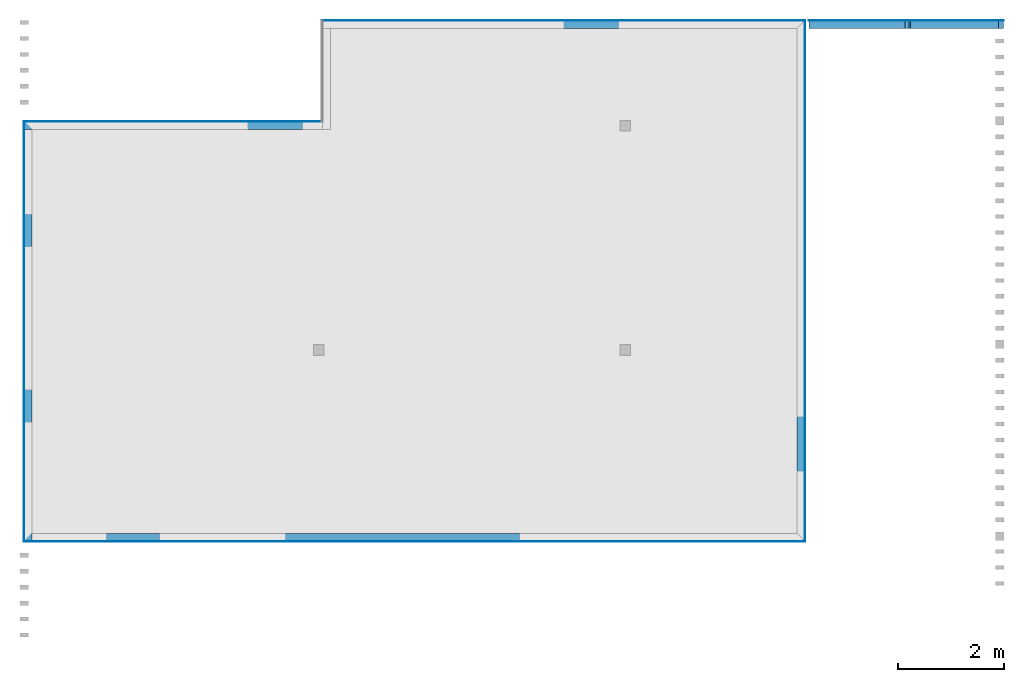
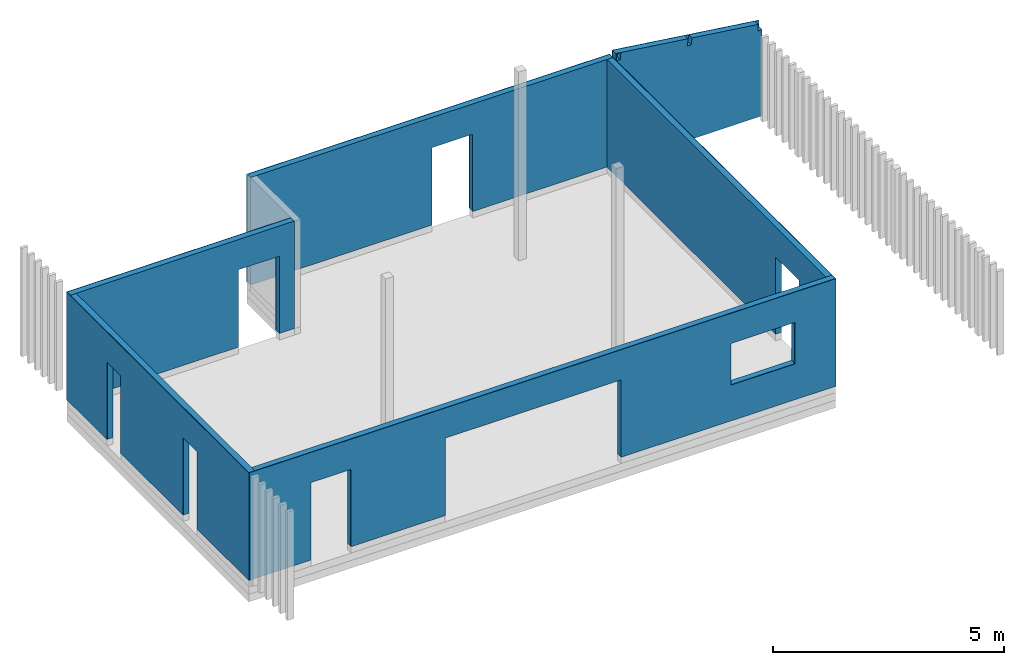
# One storey, part 3 of 3: 12 building element parts, 6 elements without a shape of their own.
"""IFC4 building model written with IfcOpenShell, lengths in centimetres."""

from ifc_helpers import new_model, entity, si_unit, converted_unit, derived_unit, direction, frame, origin, place, context, subcontext, project, spatial, polygons, material, type_object, element, aggregate, save


model = new_model("IFC4")

# Units and contexts
model_context = context("Model", 3, precision=0.001, world=origin(), true_north=direction((6.123233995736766e-17, 1.0)))
body_context = subcontext(model_context, "Body", "Model", "MODEL_VIEW")
ifc_project = project(units=[si_unit("LENGTHUNIT", "METRE", prefix="CENTI"), si_unit("AREAUNIT", "SQUARE_METRE"), converted_unit("PLANEANGLEUNIT", "DEGREE", entity("IfcPlaneAngleMeasure", 0.017453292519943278), si_unit("PLANEANGLEUNIT", "RADIAN"), dimensions=[0, 0, 0, 0, 0, 0, 0]), si_unit("VOLUMEUNIT", "CUBIC_METRE"), derived_unit("THERMALTRANSMITTANCEUNIT", [(si_unit("MASSUNIT", "GRAM", prefix="KILO"), 1), (si_unit("THERMODYNAMICTEMPERATUREUNIT", "KELVIN"), -1), (si_unit("TIMEUNIT", "SECOND"), -3)])], contexts=[model_context])

# Site, building, storey
site_placement = place(None, frame((-0.003347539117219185, 0.0, 0.0)))
site = spatial("IfcSite", under=ifc_project, at=site_placement, Name="Default", CompositionType="ELEMENT")
building_placement = place(site_placement, origin())
building = spatial("IfcBuilding", under=site, at=building_placement, CompositionType="ELEMENT")
storey_placement = place(building_placement, frame((0.0, 0.0, 31.0)))
storey = spatial("IfcBuildingStorey", under=building, at=storey_placement, Name="± 0.000", CompositionType="ELEMENT", Elevation=31.000000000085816)

# Wall, building element parts
wall_type_1 = type_object("IfcWallType", Name="Mur de base:MOB - 145+12 mm", PredefinedType="STANDARD")
wall_1_placement = place(storey_placement, frame((-6228.286652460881, -1700.0258849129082, -31.0)))
wall_1 = element("IfcWall", 1, at=wall_1_placement, inside=storey, type_object=wall_type_1, Name="Mur de base:MOB - 145+12 mm", ObjectType="Mur de base:MOB - 145+12 mm", PredefinedType="NOTDEFINED")
ifc_material_1 = material(Name="Panneau de grandes particules orientées", Category="Bois")
building_element_part_1_placement = place(wall_1_placement, origin())
building_element_part_1 = element("IfcBuildingElementPart", 2, at=building_element_part_1_placement, material=ifc_material_1, Name="Panneau de grandes particules orientées", context=body_context, shape_type="Tessellation", body=[
    polygons([(3.179247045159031e-14, 7.849999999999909, 46.00000000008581), (455.2999999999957, 7.850000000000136, 46.00000000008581), (455.2999999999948, 7.150000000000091, 46.00000000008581), (455.2999999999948, 6.650000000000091, 46.00000000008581), (3.56848039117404e-14, 6.650000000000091, 46.00000000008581), (909.3999999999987, 7.850000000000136, 331.00000000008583), (3.179247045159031e-14, 7.849999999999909, 331.00000000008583), (3.56848039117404e-14, 6.650000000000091, 331.00000000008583), (909.3999999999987, 6.650000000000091, 331.00000000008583), (909.3999999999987, 7.850000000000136, 46.00000000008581), (909.3999999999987, 6.650000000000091, 46.00000000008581), (557.2999999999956, 7.850000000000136, 251.0000000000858), (557.2999999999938, 7.850000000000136, 46.00000000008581), (557.2999999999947, 7.150000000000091, 46.00000000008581), (557.2999999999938, 6.649999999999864, 46.00000000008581), (557.2999999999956, 6.650000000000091, 251.0000000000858), (455.2999999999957, 7.850000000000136, 251.0000000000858), (455.2999999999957, 6.650000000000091, 251.0000000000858), (833.6999999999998, 7.850000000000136, 251.0000000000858), (833.6999999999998, 7.850000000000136, 141.0000000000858), (833.6999999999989, 6.649999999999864, 141.0000000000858), (833.6999999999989, 6.649999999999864, 251.0000000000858), (673.6999999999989, 7.850000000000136, 141.0000000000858), (673.6999999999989, 6.649999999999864, 141.0000000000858), (673.6999999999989, 7.850000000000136, 251.0000000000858), (673.6999999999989, 6.649999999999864, 251.0000000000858)], [[[1, 2, 3, 4, 5]], [[6, 7, 8, 9]], [[10, 6, 9, 11]], [[7, 1, 5, 8]], [[12, 13, 14, 15, 16]], [[2, 17, 18, 4, 3]], [[17, 12, 16, 18]], [[19, 20, 21, 22]], [[20, 23, 24, 21]], [[23, 25, 26, 24]], [[25, 19, 22, 26]], [[13, 10, 11, 15, 14]], [[15, 11, 9, 8, 5, 4, 18, 16], [22, 21, 24, 26]], [[7, 6, 10, 13, 12, 17, 2, 1], [20, 19, 25, 23]]], closed=True),
])
ifc_material_2 = material(Name="Structure, couche de solives/chevrons en bois d'oeuvre", Category="Divers")
building_element_part_2_placement = place(wall_1_placement, origin())
building_element_part_2 = element("IfcBuildingElementPart", 3, at=building_element_part_2_placement, material=ifc_material_2, Name="Structure, couche de solives/chevrons en bois d'oeuvre", context=body_context, shape_type="Tessellation", body=[
    polygons([(833.6999999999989, 6.649999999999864, 141.0000000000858), (833.6999999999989, 6.649999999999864, 251.0000000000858), (673.6999999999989, 6.649999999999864, 251.0000000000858), (673.6999999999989, 6.649999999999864, 141.0000000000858), (908.1999999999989, 6.650000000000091, 46.000000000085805), (557.2999999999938, 6.649999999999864, 46.000000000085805), (557.2999999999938, 6.650000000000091, 251.0000000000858), (455.2999999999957, 6.650000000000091, 251.0000000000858), (455.2999999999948, 6.650000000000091, 46.000000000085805), (1.1999999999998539, 6.650000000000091, 46.000000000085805), (1.1999999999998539, 6.650000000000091, 331.00000000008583), (908.1999999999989, 6.650000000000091, 331.00000000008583), (833.6999999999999, -7.849999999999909, 251.0000000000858), (833.6999999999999, -7.849999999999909, 141.0000000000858), (673.699999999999, -7.849999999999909, 141.0000000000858), (673.699999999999, -7.849999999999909, 251.0000000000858), (1.199999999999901, -7.849999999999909, 46.00000000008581), (455.2999999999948, -7.849999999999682, 46.00000000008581), (15.699999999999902, -7.849999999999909, 46.00000000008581), (893.6999999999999, -7.849999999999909, 331.00000000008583), (908.199999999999, -7.849999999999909, 331.00000000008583), (1.199999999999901, -7.849999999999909, 331.00000000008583), (15.699999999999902, -7.849999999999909, 331.00000000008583), (557.2999999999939, -7.849999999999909, 46.00000000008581), (557.2999999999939, -7.849999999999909, 251.0000000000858), (455.2999999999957, -7.849999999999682, 251.0000000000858), (893.6999999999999, -7.849999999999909, 46.00000000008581), (908.199999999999, -7.849999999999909, 46.00000000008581)], [[[5, 6, 7, 8, 9, 10, 11, 12], [1, 2, 3, 4]], [[13, 14, 15, 16]], [[17, 10, 9, 18, 19]], [[20, 21, 12, 11, 22, 23]], [[24, 25, 7, 6]], [[26, 18, 9, 8]], [[25, 26, 8, 7]], [[14, 13, 2, 1]], [[15, 14, 1, 4]], [[16, 15, 4, 3]], [[13, 16, 3, 2]], [[27, 24, 6, 5, 28]], [[17, 22, 11, 10]], [[21, 20, 23, 22, 17, 19, 18, 26, 25, 24, 27, 28]], [[21, 28, 5, 12]]], closed=True),
])
aggregate(wall_1, [building_element_part_1, building_element_part_2])

wall_2_placement = place(storey_placement, frame((-6228.286652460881, -1890.0258849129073, -31.0), z_axis=(0.0, 0.0, 1.0), x_axis=(-1.0, 0.0, 0.0)))
wall_2 = element("IfcWall", 4, at=wall_2_placement, inside=storey, type_object=wall_type_1, Name="Mur de base:MOB - 145+12 mm", ObjectType="Mur de base:MOB - 145+12 mm", PredefinedType="NOTDEFINED")
building_element_part_3_placement = place(wall_2_placement, origin())
building_element_part_3 = element("IfcBuildingElementPart", 5, at=building_element_part_3_placement, material=ifc_material_1, Name="Panneau de grandes particules orientées", context=body_context, shape_type="Tessellation", body=[
    polygons([(36.800000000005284, -7.849999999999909, 46.00000000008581), (5.535676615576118e-13, -7.849999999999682, 46.00000000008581), (5.498615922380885e-13, -6.649999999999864, 46.000000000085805), (36.80000000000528, -6.649999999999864, 46.000000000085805), (36.800000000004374, -7.149999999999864, 46.00000000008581), (5.535676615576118e-13, -7.849999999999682, 331.00000000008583), (561.0000000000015, -7.849999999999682, 331.00000000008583), (561.0000000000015, -6.650000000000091, 331.00000000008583), (5.498615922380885e-13, -6.649999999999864, 331.00000000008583), (561.0000000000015, -7.849999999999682, 46.00000000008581), (561.0000000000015, -6.650000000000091, 46.000000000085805), (138.80000000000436, -7.849999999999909, 46.00000000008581), (138.80000000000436, -7.849999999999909, 251.0000000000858), (138.80000000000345, -6.650000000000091, 251.0000000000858), (138.80000000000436, -6.650000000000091, 46.000000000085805), (138.80000000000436, -7.149999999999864, 46.00000000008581), (36.800000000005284, -7.849999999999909, 251.0000000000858), (36.80000000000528, -6.649999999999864, 251.0000000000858)], [[[1, 2, 3, 4, 5]], [[6, 7, 8, 9]], [[2, 6, 9, 3]], [[7, 10, 11, 8]], [[12, 13, 14, 15, 16]], [[17, 1, 5, 4, 18]], [[13, 17, 18, 14]], [[10, 12, 16, 15, 11]], [[4, 3, 9, 8, 11, 15, 14, 18]], [[7, 6, 2, 1, 17, 13, 12, 10]]], closed=True),
])
building_element_part_4_placement = place(wall_2_placement, origin())
building_element_part_4 = element("IfcBuildingElementPart", 6, at=building_element_part_4_placement, material=ifc_material_2, Name="Structure, couche de solives/chevrons en bois d'oeuvre", context=body_context, shape_type="Tessellation", body=[
    polygons([(-1.1999999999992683, -6.649999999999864, 46.00000000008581), (36.80000000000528, -6.649999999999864, 46.00000000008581), (36.80000000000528, -6.649999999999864, 251.0000000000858), (138.80000000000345, -6.650000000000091, 251.0000000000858), (138.80000000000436, -6.650000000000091, 46.00000000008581), (559.8000000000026, -6.650000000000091, 46.00000000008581), (559.8000000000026, -6.650000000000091, 331.00000000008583), (-1.1999999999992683, -6.649999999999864, 331.00000000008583), (-1.199999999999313, 7.850000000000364, 331.00000000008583), (545.3000000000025, 7.849999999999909, 331.00000000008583), (559.8000000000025, 7.850000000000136, 331.00000000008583), (559.8000000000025, 7.850000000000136, 46.00000000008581), (545.3000000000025, 7.849999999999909, 46.00000000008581), (138.80000000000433, 7.849999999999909, 46.00000000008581), (138.80000000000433, 7.849999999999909, 251.0000000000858), (36.800000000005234, 7.849999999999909, 251.0000000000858), (36.800000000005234, 7.849999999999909, 46.00000000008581), (-1.199999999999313, 7.850000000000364, 46.00000000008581)], [[[1, 2, 3, 4, 5, 6, 7, 8]], [[9, 10, 11, 12, 13, 14, 15, 16, 17, 18]], [[18, 17, 2, 1]], [[10, 9, 8, 7, 11]], [[15, 14, 5, 4]], [[17, 16, 3, 2]], [[16, 15, 4, 3]], [[13, 12, 6, 5, 14]], [[9, 18, 1, 8]], [[12, 11, 7, 6]]], closed=True),
])
aggregate(wall_2, [building_element_part_3, building_element_part_4])

wall_3_placement = place(storey_placement, frame((-6781.436652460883, -1897.8758849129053, -31.0), z_axis=(0.0, 0.0, 1.0), x_axis=(0.0, -1.0, 0.0)))
wall_3 = element("IfcWall", 7, at=wall_3_placement, inside=storey, type_object=wall_type_1, Name="Mur de base:MOB - 145+12 mm", ObjectType="Mur de base:MOB - 145+12 mm", PredefinedType="NOTDEFINED")
building_element_part_5_placement = place(wall_3_placement, origin())
building_element_part_5 = element("IfcBuildingElementPart", 8, at=building_element_part_5_placement, material=ifc_material_1, Name="Panneau de grandes particules orientées", context=body_context, shape_type="Tessellation", body=[
    polygons([(160.00000000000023, -7.849999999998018, 46.00000000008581), (-14.500000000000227, -7.849999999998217, 46.00000000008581), (-14.500000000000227, -6.6499999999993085, 46.000000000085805), (160.00000000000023, -6.6499999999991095, 46.000000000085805), (-14.500000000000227, -7.849999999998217, 331.00000000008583), (775.6999999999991, -7.8499999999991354, 331.00000000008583), (775.6999999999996, -6.649999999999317, 331.00000000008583), (-14.500000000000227, -6.6499999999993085, 331.00000000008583), (775.6999999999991, -7.8499999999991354, 46.00000000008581), (775.6999999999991, -6.649999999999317, 46.000000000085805), (490.0000000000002, -7.8499999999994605, 251.0000000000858), (490.0000000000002, -7.8499999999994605, 46.00000000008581), (490.0000000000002, -6.649999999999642, 46.000000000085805), (490.0000000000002, -6.649999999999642, 251.0000000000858), (549.9999999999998, -7.849999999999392, 46.00000000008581), (549.9999999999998, -7.849999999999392, 251.0000000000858), (549.9999999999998, -6.649999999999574, 251.0000000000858), (549.9999999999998, -6.649999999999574, 46.000000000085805), (159.99999999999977, -7.849999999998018, 251.0000000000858), (159.99999999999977, -6.6499999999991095, 251.0000000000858), (220.00000000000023, -7.84999999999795, 46.00000000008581), (219.99999999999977, -7.84999999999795, 251.0000000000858), (219.99999999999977, -6.649999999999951, 251.0000000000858), (220.00000000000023, -6.649999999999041, 46.000000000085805)], [[[1, 2, 3, 4]], [[5, 6, 7, 8]], [[6, 9, 10, 7]], [[11, 12, 13, 14]], [[15, 16, 17, 18]], [[16, 11, 14, 17]], [[19, 1, 4, 20]], [[21, 22, 23, 24]], [[22, 19, 20, 23]], [[12, 21, 24, 13]], [[9, 15, 18, 10]], [[4, 3, 8, 7, 10, 18, 17, 14, 13, 24, 23, 20]], [[6, 5, 2, 1, 19, 22, 21, 12, 11, 16, 15, 9]], [[2, 5, 8, 3]]], closed=True),
])
building_element_part_6_placement = place(wall_3_placement, origin())
building_element_part_6 = element("IfcBuildingElementPart", 9, at=building_element_part_6_placement, material=ifc_material_2, Name="Structure, couche de solives/chevrons en bois d'oeuvre", context=body_context, shape_type="Tessellation", body=[
    polygons([(0.0, -6.649999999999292, 46.00000000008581), (160.00000000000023, -6.6499999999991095, 46.00000000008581), (160.00000000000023, -6.6499999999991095, 251.0000000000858), (219.99999999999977, -6.649999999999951, 251.0000000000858), (220.00000000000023, -6.649999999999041, 46.00000000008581), (490.0000000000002, -6.649999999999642, 46.00000000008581), (490.0000000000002, -6.649999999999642, 251.0000000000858), (549.9999999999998, -6.649999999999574, 251.0000000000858), (549.9999999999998, -6.649999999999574, 46.00000000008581), (774.4999999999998, -6.649999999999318, 46.00000000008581), (774.4999999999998, -6.649999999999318, 331.00000000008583), (0.0, -6.649999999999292, 331.00000000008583), (0.0, 7.850000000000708, 331.00000000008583), (759.9999999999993, 7.850000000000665, 331.00000000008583), (774.4999999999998, 7.850000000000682, 331.00000000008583), (774.4999999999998, 7.850000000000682, 46.00000000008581), (759.9999999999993, 7.850000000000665, 46.00000000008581), (549.9999999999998, 7.850000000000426, 46.00000000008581), (549.9999999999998, 7.850000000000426, 251.0000000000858), (490.0000000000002, 7.850000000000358, 251.0000000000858), (490.0000000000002, 7.850000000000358, 46.00000000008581), (220.00000000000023, 7.850000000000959, 46.00000000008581), (219.99999999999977, 7.850000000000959, 251.0000000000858), (160.00000000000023, 7.8500000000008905, 251.0000000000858), (160.00000000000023, 7.8500000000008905, 46.00000000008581), (0.0, 7.850000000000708, 46.00000000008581)], [[[1, 2, 3, 4, 5, 6, 7, 8, 9, 10, 11, 12]], [[13, 14, 15, 16, 17, 18, 19, 20, 21, 22, 23, 24, 25, 26]], [[26, 25, 2, 1]], [[14, 13, 12, 11, 15]], [[13, 26, 1, 12]], [[21, 20, 7, 6]], [[19, 18, 9, 8]], [[20, 19, 8, 7]], [[25, 24, 3, 2]], [[23, 22, 5, 4]], [[24, 23, 4, 3]], [[22, 21, 6, 5]], [[17, 16, 10, 9, 18]], [[16, 15, 11, 10]]], closed=True),
])
aggregate(wall_3, [building_element_part_5, building_element_part_6])

wall_4_placement = place(storey_placement, frame((-6773.586652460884, -2665.725884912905, -31.0)))
wall_4 = element("IfcWall", 10, at=wall_4_placement, inside=storey, type_object=wall_type_1, Name="Mur de base:MOB - 145+12 mm", ObjectType="Mur de base:MOB - 145+12 mm", PredefinedType="NOTDEFINED")
building_element_part_7_placement = place(wall_4_placement, origin())
building_element_part_7 = element("IfcBuildingElementPart", 11, at=building_element_part_7_placement, material=ifc_material_1, Name="Panneau de grandes particules orientées", context=body_context, shape_type="Tessellation", body=[
    polygons([(139.99999999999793, -7.849999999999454, 46.00000000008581), (-14.499999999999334, -7.849999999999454, 46.00000000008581), (-14.499999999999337, -6.650000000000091, 46.000000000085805), (139.99999999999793, -6.649999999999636, 46.000000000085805), (139.99999999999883, -7.149999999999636, 46.00000000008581), (-14.499999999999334, -7.849999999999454, 331.00000000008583), (1454.7000000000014, -7.849999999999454, 331.00000000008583), (1454.7000000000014, -6.649999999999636, 331.00000000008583), (-14.499999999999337, -6.650000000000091, 331.00000000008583), (1454.7000000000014, -7.849999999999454, 46.00000000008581), (1454.7000000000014, -6.649999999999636, 46.000000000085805), (476.5000000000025, -7.849999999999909, 251.0000000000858), (476.5000000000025, -7.849999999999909, 46.00000000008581), (476.5000000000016, -7.150000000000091, 46.00000000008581), (476.5000000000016, -6.649999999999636, 46.000000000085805), (476.5000000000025, -6.649999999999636, 251.0000000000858), (916.5000000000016, -7.850000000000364, 46.00000000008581), (916.5000000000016, -7.850000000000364, 251.0000000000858), (916.5000000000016, -6.649999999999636, 251.0000000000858), (916.5000000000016, -6.649999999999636, 46.000000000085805), (916.5000000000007, -7.150000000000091, 46.00000000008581), (1352.0000000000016, -7.849999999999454, 141.0000000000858), (1352.0000000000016, -7.849999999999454, 251.0000000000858), (1352.0000000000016, -6.6499999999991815, 251.0000000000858), (1352.0000000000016, -6.6499999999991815, 141.0000000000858), (1192.0000000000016, -7.849999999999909, 141.0000000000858), (1192.0000000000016, -6.649999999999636, 141.0000000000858), (1192.0000000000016, -7.849999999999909, 251.0000000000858), (1192.0000000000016, -6.649999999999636, 251.0000000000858), (239.99999999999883, -7.849999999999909, 46.00000000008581), (239.99999999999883, -7.849999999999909, 251.0000000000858), (239.99999999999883, -6.650000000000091, 251.0000000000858), (239.99999999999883, -6.650000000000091, 46.000000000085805), (239.99999999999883, -7.150000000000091, 46.00000000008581), (139.99999999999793, -7.849999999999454, 251.0000000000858), (139.99999999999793, -6.649999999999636, 251.0000000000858)], [[[1, 2, 3, 4, 5]], [[6, 7, 8, 9]], [[7, 10, 11, 8]], [[12, 13, 14, 15, 16]], [[17, 18, 19, 20, 21]], [[18, 12, 16, 19]], [[22, 23, 24, 25]], [[26, 22, 25, 27]], [[28, 26, 27, 29]], [[23, 28, 29, 24]], [[30, 31, 32, 33, 34]], [[35, 1, 5, 4, 36]], [[31, 35, 36, 32]], [[13, 30, 34, 33, 15, 14]], [[10, 17, 21, 20, 11]], [[4, 3, 9, 8, 11, 20, 19, 16, 15, 33, 32, 36], [25, 24, 29, 27]], [[7, 6, 2, 1, 35, 31, 30, 13, 12, 18, 17, 10], [23, 22, 26, 28]], [[2, 6, 9, 3]]], closed=True),
])
building_element_part_8_placement = place(wall_4_placement, origin())
building_element_part_8 = element("IfcBuildingElementPart", 12, at=building_element_part_8_placement, material=ifc_material_2, Name="Structure, couche de solives/chevrons en bois d'oeuvre", context=body_context, shape_type="Tessellation", body=[
    polygons([(1352.0000000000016, -6.6499999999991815, 251.0000000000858), (1352.0000000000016, -6.6499999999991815, 141.0000000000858), (1192.0000000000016, -6.649999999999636, 141.0000000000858), (1192.0000000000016, -6.649999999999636, 251.0000000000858), (6.629446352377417e-13, -6.650000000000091, 46.00000000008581), (139.99999999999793, -6.649999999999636, 46.00000000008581), (139.99999999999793, -6.649999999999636, 251.0000000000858), (239.99999999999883, -6.650000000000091, 251.0000000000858), (239.99999999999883, -6.650000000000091, 46.00000000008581), (476.5000000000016, -6.649999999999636, 46.00000000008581), (476.5000000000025, -6.649999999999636, 251.0000000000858), (916.5000000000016, -6.649999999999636, 251.0000000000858), (916.5000000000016, -6.649999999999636, 46.00000000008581), (1453.5000000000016, -6.649999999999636, 46.00000000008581), (1453.5000000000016, -6.649999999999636, 331.00000000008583), (6.629446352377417e-13, -6.650000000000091, 331.00000000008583), (1352.0000000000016, 7.850000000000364, 251.0000000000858), (1192.0000000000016, 7.849999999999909, 251.0000000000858), (1192.0000000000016, 7.849999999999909, 141.0000000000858), (1352.0000000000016, 7.850000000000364, 141.0000000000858), (6.149342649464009e-13, 7.850000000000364, 331.00000000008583), (1439.0000000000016, 7.849999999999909, 331.00000000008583), (1453.5000000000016, 7.849999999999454, 331.00000000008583), (1453.5000000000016, 7.849999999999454, 46.00000000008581), (1439.0000000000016, 7.849999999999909, 46.00000000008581), (916.5000000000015, 7.850000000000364, 46.00000000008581), (916.5000000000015, 7.850000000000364, 251.0000000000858), (476.50000000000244, 7.849999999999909, 251.0000000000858), (476.50000000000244, 7.849999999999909, 46.00000000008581), (239.9999999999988, 7.849999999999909, 46.00000000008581), (239.9999999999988, 7.849999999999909, 251.0000000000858), (139.9999999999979, 7.850000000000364, 251.0000000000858), (139.9999999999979, 7.850000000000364, 46.00000000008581), (6.149342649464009e-13, 7.850000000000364, 46.00000000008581)], [[[5, 6, 7, 8, 9, 10, 11, 12, 13, 14, 15, 16], [1, 2, 3, 4]], [[21, 22, 23, 24, 25, 26, 27, 28, 29, 30, 31, 32, 33, 34], [17, 18, 19, 20]], [[34, 33, 6, 5]], [[22, 21, 16, 15, 23]], [[21, 34, 5, 16]], [[29, 28, 11, 10]], [[27, 26, 13, 12]], [[28, 27, 12, 11]], [[17, 20, 2, 1]], [[20, 19, 3, 2]], [[19, 18, 4, 3]], [[18, 17, 1, 4]], [[31, 30, 9, 8]], [[33, 32, 7, 6]], [[32, 31, 8, 7]], [[30, 29, 10, 9]], [[25, 24, 14, 13, 26]], [[24, 23, 15, 14]]], closed=True),
])
aggregate(wall_4, [building_element_part_7, building_element_part_8])

wall_5_placement = place(storey_placement, frame((-5326.736652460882, -2657.87588491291, -31.0), z_axis=(0.0, 0.0, 1.0), x_axis=(0.0, 1.0, 0.0)))
wall_5 = element("IfcWall", 13, at=wall_5_placement, inside=storey, type_object=wall_type_1, Name="Mur de base:MOB - 145+12 mm", ObjectType="Mur de base:MOB - 145+12 mm", PredefinedType="NOTDEFINED")
building_element_part_9_placement = place(wall_5_placement, origin())
building_element_part_9 = element("IfcBuildingElementPart", 14, at=building_element_part_9_placement, material=ifc_material_1, Name="Panneau de grandes particules orientées", context=body_context, shape_type="Tessellation", body=[
    polygons([(117.49999999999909, -7.84999999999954, 46.00000000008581), (-14.499999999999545, -7.84999999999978, 46.00000000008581), (-14.499999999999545, -6.649999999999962, 46.000000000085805), (117.49999999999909, -6.6499999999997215, 46.000000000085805), (117.49999999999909, -7.1499999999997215, 46.00000000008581), (-14.499999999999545, -7.84999999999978, 331.00000000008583), (964.4999999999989, -7.8499999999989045, 331.00000000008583), (964.4999999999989, -6.649999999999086, 331.00000000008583), (-14.499999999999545, -6.649999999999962, 331.00000000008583), (219.49999999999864, -7.849999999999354, 46.00000000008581), (219.49999999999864, -7.849999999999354, 251.0000000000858), (219.49999999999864, -6.649999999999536, 251.0000000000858), (219.49999999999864, -6.649999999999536, 46.000000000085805), (219.49999999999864, -7.149999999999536, 46.00000000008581), (117.49999999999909, -7.84999999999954, 251.0000000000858), (117.49999999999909, -6.6499999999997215, 251.0000000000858), (964.4999999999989, -7.8499999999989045, 46.00000000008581), (964.4999999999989, -6.649999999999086, 46.000000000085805)], [[[1, 2, 3, 4, 5]], [[6, 7, 8, 9]], [[10, 11, 12, 13, 14]], [[15, 1, 5, 4, 16]], [[11, 15, 16, 12]], [[17, 10, 14, 13, 18]], [[4, 3, 9, 8, 18, 13, 12, 16]], [[7, 6, 2, 1, 15, 11, 10, 17]], [[2, 6, 9, 3]], [[7, 17, 18, 8]]], closed=True),
])
building_element_part_10_placement = place(wall_5_placement, origin())
building_element_part_10 = element("IfcBuildingElementPart", 15, at=building_element_part_10_placement, material=ifc_material_2, Name="Structure, couche de solives/chevrons en bois d'oeuvre", context=body_context, shape_type="Tessellation", body=[
    polygons([(-4.547473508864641e-13, -6.649999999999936, 46.00000000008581), (117.49999999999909, -6.6499999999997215, 46.00000000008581), (117.49999999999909, -6.6499999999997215, 251.0000000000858), (219.49999999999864, -6.649999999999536, 251.0000000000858), (219.49999999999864, -6.649999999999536, 46.00000000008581), (949.9999999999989, -6.649999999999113, 46.00000000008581), (949.9999999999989, -6.649999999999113, 331.00000000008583), (-4.547473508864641e-13, -6.649999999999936, 331.00000000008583), (-4.547473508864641e-13, 7.849999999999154, 331.00000000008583), (949.9999999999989, 7.849999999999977, 331.00000000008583), (949.9999999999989, 7.849999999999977, 46.00000000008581), (219.4999999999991, 7.849999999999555, 46.00000000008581), (219.49999999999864, 7.849999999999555, 251.0000000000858), (117.49999999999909, 7.849999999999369, 251.0000000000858), (117.49999999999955, 7.849999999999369, 46.00000000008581), (-4.547473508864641e-13, 7.849999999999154, 46.00000000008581)], [[[1, 2, 3, 4, 5, 6, 7, 8]], [[9, 10, 11, 12, 13, 14, 15, 16]], [[16, 15, 2, 1]], [[10, 9, 8, 7]], [[9, 16, 1, 8]], [[11, 10, 7, 6]], [[13, 12, 5, 4]], [[15, 14, 3, 2]], [[14, 13, 4, 3]], [[12, 11, 6, 5]]], closed=True),
])
aggregate(wall_5, [building_element_part_9, building_element_part_10])

wall_type_2 = type_object("IfcWallType", Name="Mur de base:MOB - 145+12 mm sans  isolant", PredefinedType="STANDARD")
wall_6_placement = place(storey_placement, frame((-5312.586652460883, -1700.025884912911, -31.0)))
wall_6 = element("IfcWall", 16, at=wall_6_placement, inside=storey, type_object=wall_type_2, Name="Mur de base:MOB - 145+12 mm sans  isolant", ObjectType="Mur de base:MOB - 145+12 mm sans  isolant", PredefinedType="NOTDEFINED")
building_element_part_11_placement = place(wall_6_placement, origin())
building_element_part_11 = element("IfcBuildingElementPart", 17, at=building_element_part_11_placement, material=ifc_material_1, Name="Panneau de grandes particules orientées", context=body_context, shape_type="Tessellation", body=[
    polygons([(-4.0743317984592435e-13, 7.849999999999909, 46.000000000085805), (366.5000000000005, 7.849999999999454, 46.000000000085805), (366.5000000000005, 6.649999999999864, 46.000000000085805), (-4.032073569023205e-13, 6.649999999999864, 46.000000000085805), (366.5000000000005, 7.849999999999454, 290.0000000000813), (366.5000000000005, 6.649999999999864, 290.00000000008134), (-4.0743317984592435e-13, 7.849999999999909, 339.15504291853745), (-4.032073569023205e-13, 6.649999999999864, 339.15504291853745)], [[[1, 2, 3, 4]], [[2, 5, 6, 3]], [[7, 1, 4, 8]], [[5, 7, 8, 6]], [[4, 3, 6, 8]], [[2, 1, 7, 5]]], closed=True),
])
ifc_material_3 = material(Name="Structure, couche de solives/chevrons en bois d'oeuvre sans isolant", Category="Divers")
building_element_part_12_placement = place(wall_6_placement, origin())
building_element_part_12 = element("IfcBuildingElementPart", 18, at=building_element_part_12_placement, material=ifc_material_3, Name="Structure, couche de solives/chevrons en bois d'oeuvre sans isolant", context=body_context, shape_type="Tessellation", body=[
    polygons([(366.5000000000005, 6.649999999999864, 46.000000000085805), (-4.032073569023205e-13, 6.649999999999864, 46.000000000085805), (-4.032073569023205e-13, 6.649999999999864, 339.15504291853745), (366.5000000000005, 6.649999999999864, 290.00000000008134), (2.8599112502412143, -7.850000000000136, 337.5948246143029), (12.80428398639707, -7.850000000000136, 336.54151986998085), (10.908335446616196, -7.850000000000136, 318.6416489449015), (0.9639627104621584, -7.850000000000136, 319.69495368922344), (-3.5214532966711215e-13, -7.850000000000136, 46.000000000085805), (366.50000000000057, -7.850000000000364, 46.000000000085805), (366.50000000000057, -7.850000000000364, 274.00000000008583), (356.5000000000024, -7.849999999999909, 274.00000000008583), (356.5000000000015, -7.850000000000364, 291.3412017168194), (191.03647244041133, -7.849999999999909, 313.533198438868), (188.64373398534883, -7.849999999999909, 295.6929405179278), (178.73247958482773, -7.850000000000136, 297.0222396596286), (181.12521803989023, -7.849999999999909, 314.86249758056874), (-3.5214532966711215e-13, -7.850000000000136, 339.15504291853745), (188.64373398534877, 6.625000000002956, 295.69294051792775), (178.73247958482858, 6.6250000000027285, 297.02223965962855), (181.12521803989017, 6.625000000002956, 314.86249758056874), (191.03647244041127, 6.625000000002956, 313.533198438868), (2.8599112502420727, 6.625000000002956, 337.5948246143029), (12.804283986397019, 6.625000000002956, 336.54151986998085), (10.908335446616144, 6.625000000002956, 318.6416489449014), (0.9639627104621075, 6.625000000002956, 319.69495368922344), (366.5000000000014, 6.583315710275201, 274.00000000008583), (356.50000000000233, 6.583315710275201, 274.00000000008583), (356.50000000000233, 6.583315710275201, 291.34120171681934), (366.5000000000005, 6.583315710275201, 290.0000000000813)], [[[1, 2, 3, 4]], [[9, 10, 11, 12, 13, 14, 15, 16, 17, 18], [5, 6, 7, 8]], [[16, 15, 19, 20]], [[17, 16, 20, 21]], [[15, 14, 22, 19]], [[20, 19, 22, 21]], [[6, 5, 23, 24]], [[8, 7, 25, 26]], [[5, 8, 26, 23]], [[7, 6, 24, 25]], [[24, 23, 26, 25]], [[12, 11, 27, 28]], [[13, 12, 28, 29]], [[28, 27, 30, 29]], [[10, 9, 2, 1]], [[11, 10, 1, 4, 30, 27]], [[9, 18, 3, 2]], [[14, 13, 29, 30, 4, 3, 18, 17, 21, 22]]], closed=True),
])
aggregate(wall_6, [building_element_part_11, building_element_part_12])

save(model, "model.ifc")
